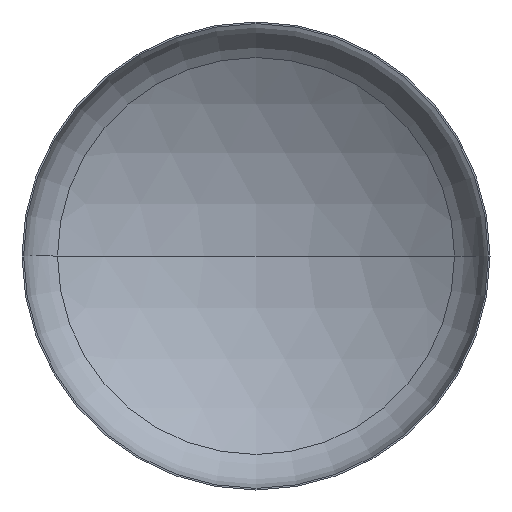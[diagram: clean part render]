
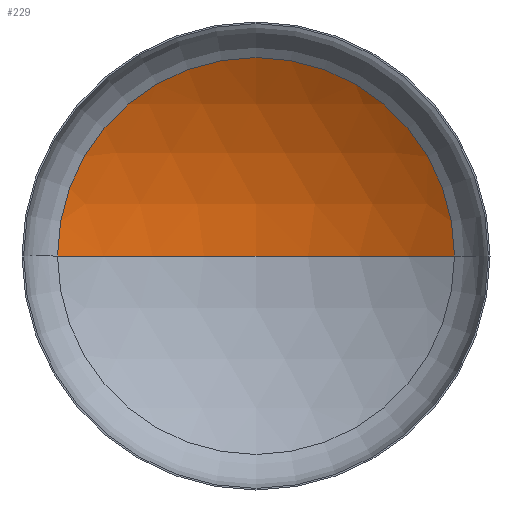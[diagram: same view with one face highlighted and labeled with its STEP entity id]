
A CAD part, front view. The second image highlights one B-rep face of the part: STEP entity #229.
In plain terms, the highlighted spherical face has radius 4800 mm.
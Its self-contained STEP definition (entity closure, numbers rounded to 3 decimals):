
#17 = ORIENTED_EDGE ( 'NONE', *, *, #92, .T. ) ;
#22 = CARTESIAN_POINT ( 'NONE',  ( -2544.31, 854.361, 0. ) ) ;
#26 = VERTEX_POINT ( 'NONE', #273 ) ;
#44 = DIRECTION ( 'NONE',  ( 0., 0., -1. ) ) ;
#55 = ORIENTED_EDGE ( 'NONE', *, *, #95, .T. ) ;
#74 = AXIS2_PLACEMENT_3D ( 'NONE', #310, #237, #286 ) ;
#92 = EDGE_CURVE ( 'NONE', #185, #113, #233, .T. ) ;
#95 = EDGE_CURVE ( 'NONE', #26, #185, #303, .T. ) ;
#100 = EDGE_CURVE ( 'NONE', #26, #113, #133, .T. ) ;
#109 = CARTESIAN_POINT ( 'NONE',  ( 2544.31, 854.361, 0. ) ) ;
#110 = AXIS2_PLACEMENT_3D ( 'NONE', #348, #313, #126 ) ;
#112 = SPHERICAL_SURFACE ( 'NONE', #304, 4800. ) ;
#113 = VERTEX_POINT ( 'NONE', #22 ) ;
#126 = DIRECTION ( 'NONE',  ( -1., 0., 0. ) ) ;
#131 = AXIS2_PLACEMENT_3D ( 'NONE', #356, #203, #289 ) ;
#133 = CIRCLE ( 'NONE', #131, 4800. ) ;
#146 = ORIENTED_EDGE ( 'NONE', *, *, #100, .F. ) ;
#185 = VERTEX_POINT ( 'NONE', #109 ) ;
#203 = DIRECTION ( 'NONE',  ( 0., 0., 1. ) ) ;
#210 = EDGE_LOOP ( 'NONE', ( #146, #55, #17 ) ) ;
#214 = DIRECTION ( 'NONE',  ( -1., 0., 0. ) ) ;
#216 = FACE_OUTER_BOUND ( 'NONE', #210, .T. ) ;
#229 = ADVANCED_FACE ( 'NONE', ( #216 ), #112, .F. ) ;
#233 = CIRCLE ( 'NONE', #74, 2544.31 ) ;
#237 = DIRECTION ( 'NONE',  ( 0., -1., 0. ) ) ;
#273 = CARTESIAN_POINT ( 'NONE',  ( 0., 1584.165, 0. ) ) ;
#286 = DIRECTION ( 'NONE',  ( 1., 0., 0. ) ) ;
#289 = DIRECTION ( 'NONE',  ( 1., 0., 0. ) ) ;
#303 = CIRCLE ( 'NONE', #110, 4800. ) ;
#304 = AXIS2_PLACEMENT_3D ( 'NONE', #372, #44, #214 ) ;
#310 = CARTESIAN_POINT ( 'NONE',  ( 0., 854.361, 0. ) ) ;
#313 = DIRECTION ( 'NONE',  ( 0., 0., -1. ) ) ;
#348 = CARTESIAN_POINT ( 'NONE',  ( 0., -3215.835, 0. ) ) ;
#356 = CARTESIAN_POINT ( 'NONE',  ( 0., -3215.835, 0. ) ) ;
#372 = CARTESIAN_POINT ( 'NONE',  ( 0., -3215.835, 0. ) ) ;
